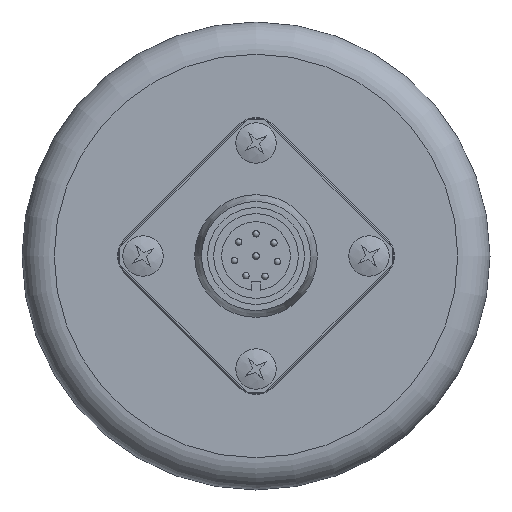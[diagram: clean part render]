
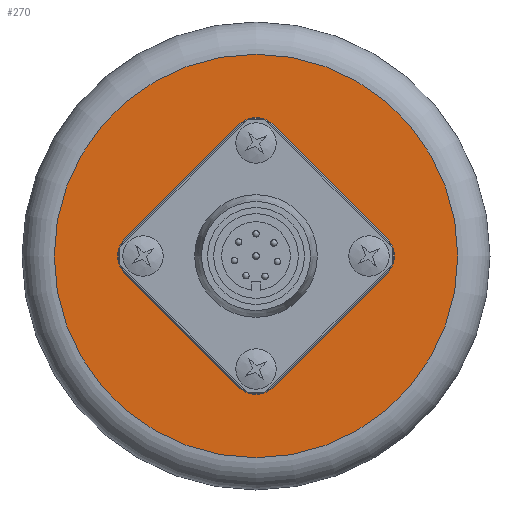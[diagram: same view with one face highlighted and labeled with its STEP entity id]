
A CAD part, left-side view. The second image highlights one B-rep face of the part: STEP entity #270.
In plain terms, the highlighted planar face has unit normal (-1, 0, 0).
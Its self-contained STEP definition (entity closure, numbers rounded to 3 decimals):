
#149 = CARTESIAN_POINT ( 'NONE',  ( -25., 0., -14.001 ) ) ;
#255 = CIRCLE ( 'NONE', #1624, 1.35 ) ;
#270 = ADVANCED_FACE ( 'NONE', ( #9033, #4510, #6630, #4219, #1784, #11200 ), #994, .F. ) ;
#564 = AXIS2_PLACEMENT_3D ( 'NONE', #9794, #4377, #10735 ) ;
#603 = CARTESIAN_POINT ( 'NONE',  ( -25., -12.651, 0. ) ) ;
#994 = PLANE ( 'NONE',  #9249 ) ;
#1071 = DIRECTION ( 'NONE',  ( 0., 1., 0. ) ) ;
#1592 = VERTEX_POINT ( 'NONE', #3443 ) ;
#1624 = AXIS2_PLACEMENT_3D ( 'NONE', #3704, #10056, #4626 ) ;
#1784 = FACE_BOUND ( 'NONE', #5197, .T. ) ;
#1822 = CIRCLE ( 'NONE', #564, 10. ) ;
#2071 = ORIENTED_EDGE ( 'NONE', *, *, #11761, .T. ) ;
#2228 = EDGE_LOOP ( 'NONE', ( #6197 ) ) ;
#2633 = CARTESIAN_POINT ( 'NONE',  ( -25., 1.35, -14.001 ) ) ;
#2651 = DIRECTION ( 'NONE',  ( -1., 0., 0. ) ) ;
#2729 = CARTESIAN_POINT ( 'NONE',  ( -25., 0., 14.001 ) ) ;
#2816 = ORIENTED_EDGE ( 'NONE', *, *, #5359, .F. ) ;
#3112 = AXIS2_PLACEMENT_3D ( 'NONE', #149, #6506, #1071 ) ;
#3155 = EDGE_CURVE ( 'NONE', #8162, #8162, #255, .T. ) ;
#3182 = VERTEX_POINT ( 'NONE', #6444 ) ;
#3443 = CARTESIAN_POINT ( 'NONE',  ( -25., 1.35, 14.001 ) ) ;
#3652 = DIRECTION ( 'NONE',  ( 0., 1., 0. ) ) ;
#3704 = CARTESIAN_POINT ( 'NONE',  ( -25., -14.001, 0. ) ) ;
#3792 = AXIS2_PLACEMENT_3D ( 'NONE', #5044, #11404, #5960 ) ;
#4219 = FACE_BOUND ( 'NONE', #11263, .T. ) ;
#4227 = CIRCLE ( 'NONE', #3112, 1.35 ) ;
#4377 = DIRECTION ( 'NONE',  ( -1., 0., 0. ) ) ;
#4510 = FACE_BOUND ( 'NONE', #5383, .T. ) ;
#4565 = ORIENTED_EDGE ( 'NONE', *, *, #7943, .F. ) ;
#4626 = DIRECTION ( 'NONE',  ( 0., 1., 0. ) ) ;
#4665 = CARTESIAN_POINT ( 'NONE',  ( -25., 0., -29. ) ) ;
#4721 = AXIS2_PLACEMENT_3D ( 'NONE', #8107, #2651, #9003 ) ;
#4749 = EDGE_LOOP ( 'NONE', ( #2071 ) ) ;
#5044 = CARTESIAN_POINT ( 'NONE',  ( -25., 0., 0. ) ) ;
#5197 = EDGE_LOOP ( 'NONE', ( #11331 ) ) ;
#5359 = EDGE_CURVE ( 'NONE', #1592, #1592, #5744, .T. ) ;
#5383 = EDGE_LOOP ( 'NONE', ( #2816 ) ) ;
#5571 = DIRECTION ( 'NONE',  ( 0., -1., 0. ) ) ;
#5744 = CIRCLE ( 'NONE', #6168, 1.35 ) ;
#5960 = DIRECTION ( 'NONE',  ( 0., -1., 0. ) ) ;
#6168 = AXIS2_PLACEMENT_3D ( 'NONE', #2729, #9076, #3652 ) ;
#6197 = ORIENTED_EDGE ( 'NONE', *, *, #3155, .F. ) ;
#6295 = VERTEX_POINT ( 'NONE', #10845 ) ;
#6444 = CARTESIAN_POINT ( 'NONE',  ( -25., 10., 0. ) ) ;
#6506 = DIRECTION ( 'NONE',  ( -1., 0., 0. ) ) ;
#6587 = VERTEX_POINT ( 'NONE', #2633 ) ;
#6630 = FACE_BOUND ( 'NONE', #6918, .T. ) ;
#6918 = EDGE_LOOP ( 'NONE', ( #9219 ) ) ;
#7431 = VERTEX_POINT ( 'NONE', #10107 ) ;
#7943 = EDGE_CURVE ( 'NONE', #6587, #6587, #4227, .T. ) ;
#8107 = CARTESIAN_POINT ( 'NONE',  ( -25., 14.001, 0. ) ) ;
#8147 = CIRCLE ( 'NONE', #3792, 25. ) ;
#8162 = VERTEX_POINT ( 'NONE', #603 ) ;
#8171 = EDGE_CURVE ( 'NONE', #6295, #6295, #10190, .T. ) ;
#9003 = DIRECTION ( 'NONE',  ( 0., 1., 0. ) ) ;
#9033 = FACE_BOUND ( 'NONE', #2228, .T. ) ;
#9076 = DIRECTION ( 'NONE',  ( -1., 0., 0. ) ) ;
#9219 = ORIENTED_EDGE ( 'NONE', *, *, #8171, .F. ) ;
#9249 = AXIS2_PLACEMENT_3D ( 'NONE', #4665, #11008, #5571 ) ;
#9794 = CARTESIAN_POINT ( 'NONE',  ( -25., 0., 0. ) ) ;
#10056 = DIRECTION ( 'NONE',  ( -1., 0., 0. ) ) ;
#10107 = CARTESIAN_POINT ( 'NONE',  ( -25., -25., 0. ) ) ;
#10190 = CIRCLE ( 'NONE', #4721, 1.35 ) ;
#10735 = DIRECTION ( 'NONE',  ( 0., 1., 0. ) ) ;
#10845 = CARTESIAN_POINT ( 'NONE',  ( -25., 15.351, 0. ) ) ;
#11008 = DIRECTION ( 'NONE',  ( 1., 0., 0. ) ) ;
#11200 = FACE_OUTER_BOUND ( 'NONE', #4749, .T. ) ;
#11263 = EDGE_LOOP ( 'NONE', ( #4565 ) ) ;
#11331 = ORIENTED_EDGE ( 'NONE', *, *, #11389, .F. ) ;
#11389 = EDGE_CURVE ( 'NONE', #3182, #3182, #1822, .T. ) ;
#11404 = DIRECTION ( 'NONE',  ( -1., 0., 0. ) ) ;
#11761 = EDGE_CURVE ( 'NONE', #7431, #7431, #8147, .T. ) ;
